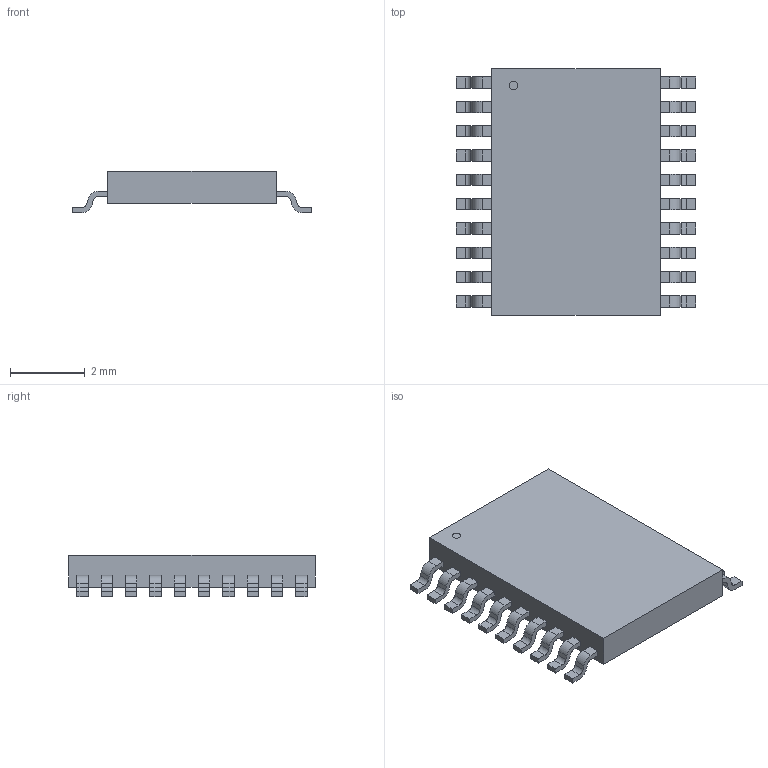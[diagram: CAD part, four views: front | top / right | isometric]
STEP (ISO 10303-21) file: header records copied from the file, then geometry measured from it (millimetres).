
FILE_DESCRIPTION(('STEP AP214'),'1');
FILE_NAME('PWP20_3P0X4P2','2026-05-09T11:08:32',(''),(''),'','','');
FILE_SCHEMA(('AUTOMOTIVE_DESIGN'));
Length unit declared in the file: millimetre
Products named in the file (1): product
Bounding box: 6.4 x 6.6 x 1.1 mm (x, y, z)
Volume: 26.3 mm3; surface area: 100.9 mm2
Topology: 22 solids, 22 shells, 289 faces, 735 edges, 490 vertices
Faces by surface type: plane 208, cylinder 81
Full cylindrical faces by diameter (mm): 0.225 x1
Entity records: 8453 total; most frequent: DIRECTION 1478, ORIENTED_EDGE 1468, CARTESIAN_POINT 863, EDGE_CURVE 734, LINE 572, VECTOR 572, VERTEX_POINT 490, AXIS2_PLACEMENT_3D 453
